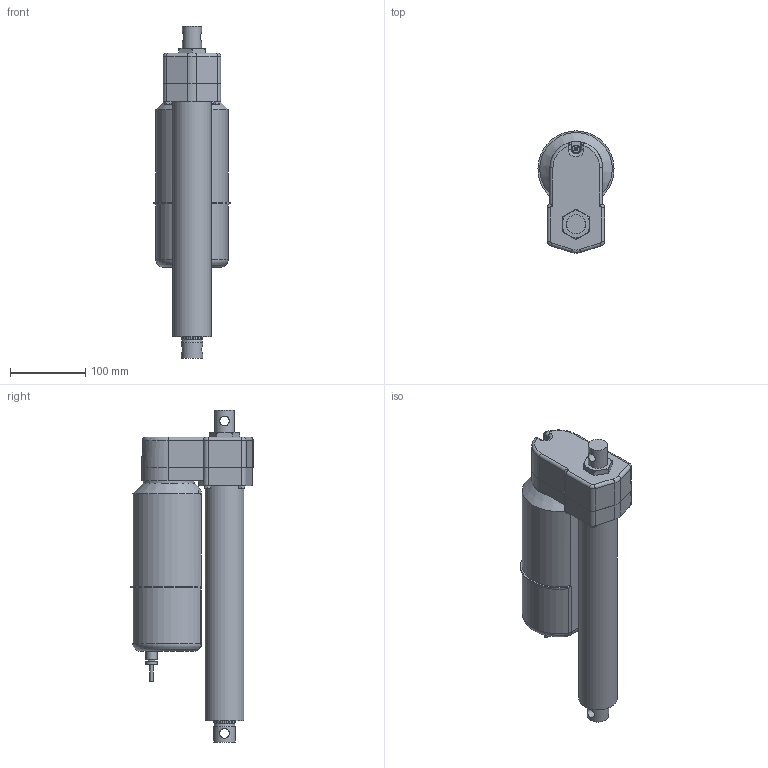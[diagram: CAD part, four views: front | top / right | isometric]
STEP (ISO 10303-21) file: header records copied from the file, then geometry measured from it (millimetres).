
FILE_DESCRIPTION (( 'STEP AP214' ), '1' );
FILE_NAME ('A22-05A5-10M0N-tollo.step', '2020-04-05T11:59:22', ( '' ), ( '' ), 'SwSTEP 2.0', 'SolidWorks 2010', '' );
FILE_SCHEMA (( 'AUTOMOTIVE_DESIGN' ));
Length unit declared in the file: millimetre
Products named in the file (7): Electrak-LA5-Motor-A22-05A5-10M0N-tollo_Electrak-LA5-Motor-A22-05A5-10M0N-tollo; Electrak-LA5-Rear-A22-05A5-10M0N-tollo_Electrak-LA5-Rear-A22-05A5-10M0N-tollo; Electrak-LA5-Tube-A22-05A5-10M0N-tollo_Electrak-LA5-Tube-A22-05A5-10M0N-tollo; Electrak-LA5-Rod-A22-05A5-10M0N-tollo_Electrak-LA5-Rod-A22-05A5-10M0N-tollo; Screw-MFX-H-M5-A22-05A5-10M0N-tollo_Screw-MFX-H-M5-A22-05A5-10M0N-tollo; Screw-M6S-M5-A22-05A5-10M0N-tollo_Screw-M6S-M5-A22-05A5-10M0N-tollo; A22-05A5-10M0N-tollo
Assembly tree (9 placements, depth 2):
  A22-05A5-10M0N-tollo
    Electrak-LA5-Rod-A22-05A5-10M0N-tollo_Electrak-LA5-Rod-A22-05A5-10M0N-tollo
    Screw-M6S-M5-A22-05A5-10M0N-tollo_Screw-M6S-M5-A22-05A5-10M0N-tollo  x4
    Electrak-LA5-Rear-A22-05A5-10M0N-tollo_Electrak-LA5-Rear-A22-05A5-10M0N-tollo
    Electrak-LA5-Tube-A22-05A5-10M0N-tollo_Electrak-LA5-Tube-A22-05A5-10M0N-tollo
    Screw-MFX-H-M5-A22-05A5-10M0N-tollo_Screw-MFX-H-M5-A22-05A5-10M0N-tollo
    Electrak-LA5-Motor-A22-05A5-10M0N-tollo_Electrak-LA5-Motor-A22-05A5-10M0N-tollo
Bounding box: 100.99 x 162.5 x 440.6 mm (x, y, z)
Volume: 2823056.8 mm3; surface area: 257733 mm2
Topology: 9 solids, 9 shells, 238 faces, 549 edges, 347 vertices
Faces by surface type: plane 95, cylinder 92, cone 31, torus 15, bspline 3, sphere 2
Full cylindrical faces by diameter (mm): 4 x1, 4.126 x5, 4.8 x2, 5 x13, 7.878 x4, 9.3 x1, 10 x1, 12.8 x2, 15 x2, 25.4 x1, 28.6 x4, 51.3 x1, 68 x1
Entity records: 5776 total; most frequent: CARTESIAN_POINT 1721, DIRECTION 806, ORIENTED_EDGE 666, AXIS2_PLACEMENT_3D 339, EDGE_CURVE 333, EDGE_LOOP 245, VERTEX_POINT 236, FACE_OUTER_BOUND 198
